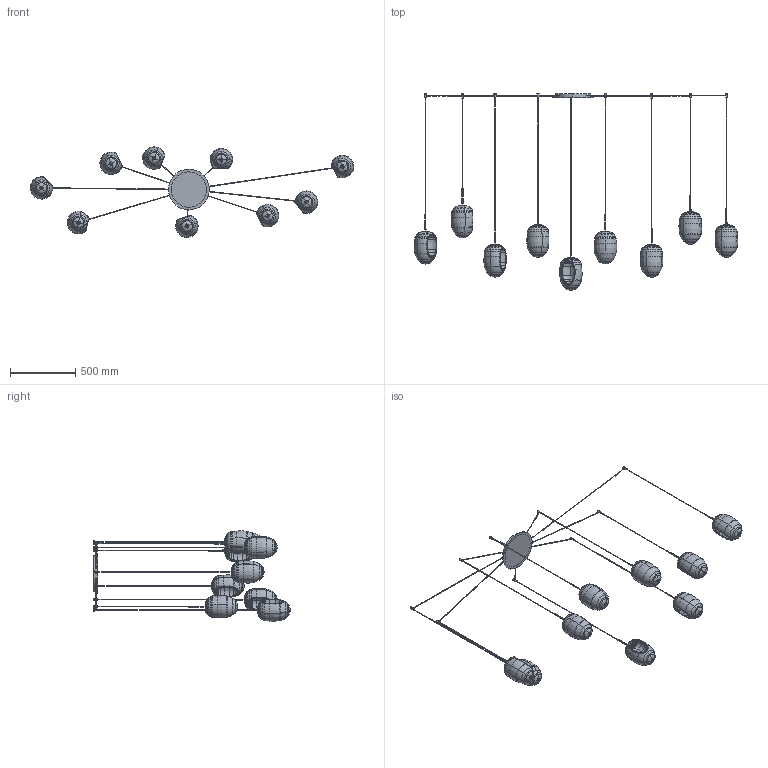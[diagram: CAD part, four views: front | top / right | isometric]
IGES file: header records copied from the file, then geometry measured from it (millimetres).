
Start section: SolidWorks IGES file using analytic representation for surfaces
Global section: file name: Y:\eforma\TECNICO\SOLIDWORKS\E-FORMA\09-LAMPADE\FOS\02 parts\FOS09_9 sospensione.IGS; native system: SolidWorks 2022; preprocessor: SolidWorks 2022; author: eforma.tech; date: 250519.091045; units: millimetre
Bounding box: 2471.91 x 1500.54 x 691.67 mm (x, y, z)
Volume: 5452905.9 mm3; surface area: 3170852.4 mm2
Topology: 91 solids, 91 shells, 2074 faces, 4969 edges, 3060 vertices
Faces by surface type: revolution 1334, plane 542, bspline 198
